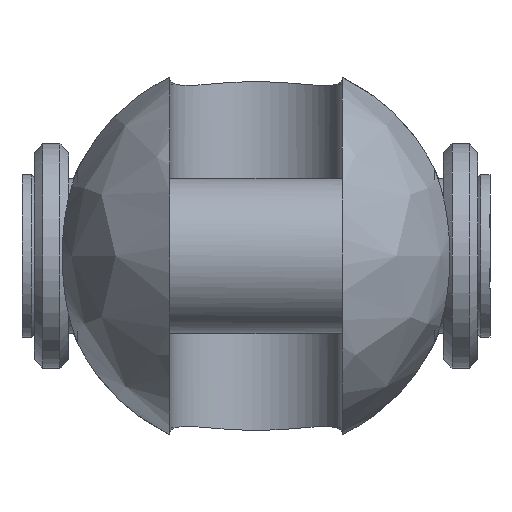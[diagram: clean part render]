
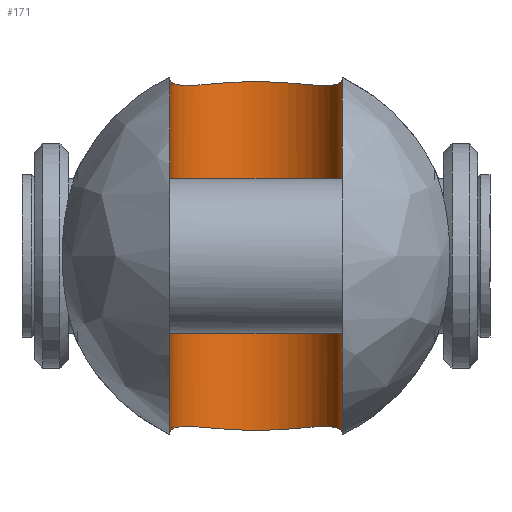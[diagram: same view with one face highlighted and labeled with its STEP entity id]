
A CAD part, left-side view. The second image highlights one B-rep face of the part: STEP entity #171.
In plain terms, the highlighted cylindrical face has radius 5 mm (diameter 10 mm), a partial arc.
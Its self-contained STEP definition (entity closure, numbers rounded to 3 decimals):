
#171=ADVANCED_FACE('',(#312),#2366,.F.);
#312=FACE_OUTER_BOUND('',#471,.T.);
#471=EDGE_LOOP('',(#1120,#1121,#1122,#1123,#1124,#1125,#1126,#1127));
#1120=ORIENTED_EDGE('',*,*,#1568,.F.);
#1121=ORIENTED_EDGE('',*,*,#1569,.F.);
#1122=ORIENTED_EDGE('',*,*,#1585,.F.);
#1123=ORIENTED_EDGE('',*,*,#1570,.F.);
#1124=ORIENTED_EDGE('',*,*,#1571,.F.);
#1125=ORIENTED_EDGE('',*,*,#1572,.F.);
#1126=ORIENTED_EDGE('',*,*,#1588,.F.);
#1127=ORIENTED_EDGE('',*,*,#1567,.F.);
#1567=EDGE_CURVE('',#2233,#2234,#1759,.T.);
#1568=EDGE_CURVE('',#2235,#2233,#1760,.T.);
#1569=EDGE_CURVE('',#2236,#2235,#1761,.T.);
#1570=EDGE_CURVE('',#2238,#2237,#1762,.T.);
#1571=EDGE_CURVE('',#2239,#2238,#1763,.T.);
#1572=EDGE_CURVE('',#2240,#2239,#1764,.T.);
#1585=EDGE_CURVE('',#2237,#2236,#1769,.T.);
#1588=EDGE_CURVE('',#2234,#2240,#1770,.T.);
#1759=B_SPLINE_CURVE_WITH_KNOTS('',3,(#5882,#5883,#5884,#5885),
 .UNSPECIFIED.,.F.,.F.,(4,4),(-1.575,0.),.UNSPECIFIED.);
#1760=B_SPLINE_CURVE_WITH_KNOTS('',1,(#5886,#5887),.UNSPECIFIED.,.F.,.F.,
(2,2),(-20.468,0.),.UNSPECIFIED.);
#1761=B_SPLINE_CURVE_WITH_KNOTS('',3,(#5888,#5889,#5890,#5891),
 .UNSPECIFIED.,.F.,.F.,(4,4),(-1.575,0.),.UNSPECIFIED.);
#1762=B_SPLINE_CURVE_WITH_KNOTS('',3,(#5892,#5893,#5894,#5895),
 .UNSPECIFIED.,.F.,.F.,(4,4),(-1.575,0.),.UNSPECIFIED.);
#1763=B_SPLINE_CURVE_WITH_KNOTS('',1,(#5896,#5897),.UNSPECIFIED.,.F.,.F.,
(2,2),(-20.468,0.),.UNSPECIFIED.);
#1764=B_SPLINE_CURVE_WITH_KNOTS('',3,(#5898,#5899,#5900,#5901),
 .UNSPECIFIED.,.F.,.F.,(4,4),(-1.575,0.),.UNSPECIFIED.);
#1769=B_SPLINE_CURVE_WITH_KNOTS('',3,(#5938,#5939,#5940,#5941,#5942,#5943,
#5944,#5945,#5946,#5947,#5948,#5949,#5950,#5951,#5952,#5953,#5954,#5955),
 .UNSPECIFIED.,.F.,.F.,(4,2,2,2,2,2,2,2,4),(0.,0.845,2.668,
4.508,6.348,8.187,10.027,11.851,
12.695),.UNSPECIFIED.);
#1770=B_SPLINE_CURVE_WITH_KNOTS('',3,(#5962,#5963,#5964,#5965,#5966,#5967,
#5968,#5969,#5970,#5971,#5972,#5973,#5974,#5975,#5976,#5977,#5978,#5979),
 .UNSPECIFIED.,.F.,.F.,(4,2,2,2,2,2,2,2,4),(0.,0.845,2.668,
4.508,6.348,8.187,10.027,11.851,
12.695),.UNSPECIFIED.);
#2233=VERTEX_POINT('',#5768);
#2234=VERTEX_POINT('',#5769);
#2235=VERTEX_POINT('',#5770);
#2236=VERTEX_POINT('',#5771);
#2237=VERTEX_POINT('',#5772);
#2238=VERTEX_POINT('',#5773);
#2239=VERTEX_POINT('',#5774);
#2240=VERTEX_POINT('',#5775);
#2366=CYLINDRICAL_SURFACE('',#2589,5.);
#2589=AXIS2_PLACEMENT_3D('',#5379,#2692,$);
#2692=DIRECTION('',(0.,0.,1.));
#5379=CARTESIAN_POINT('',(16.,0.,0.));
#5768=CARTESIAN_POINT('',(16.,5.,10.234));
#5769=CARTESIAN_POINT('',(17.526,4.762,9.995));
#5770=CARTESIAN_POINT('',(16.,5.,-10.234));
#5771=CARTESIAN_POINT('',(17.526,4.762,-9.995));
#5772=CARTESIAN_POINT('',(17.526,-4.762,-9.995));
#5773=CARTESIAN_POINT('',(16.,-5.,-10.234));
#5774=CARTESIAN_POINT('',(16.,-5.,10.234));
#5775=CARTESIAN_POINT('',(17.526,-4.762,9.995));
#5882=CARTESIAN_POINT('',(16.,5.,10.234));
#5883=CARTESIAN_POINT('',(16.498,5.,10.157));
#5884=CARTESIAN_POINT('',(17.023,4.923,10.075));
#5885=CARTESIAN_POINT('',(17.526,4.762,9.995));
#5886=CARTESIAN_POINT('',(16.,5.,-10.234));
#5887=CARTESIAN_POINT('',(16.,5.,10.234));
#5888=CARTESIAN_POINT('',(17.526,4.762,-9.995));
#5889=CARTESIAN_POINT('',(17.023,4.923,-10.075));
#5890=CARTESIAN_POINT('',(16.498,5.,-10.157));
#5891=CARTESIAN_POINT('',(16.,5.,-10.234));
#5892=CARTESIAN_POINT('',(16.,-5.,-10.234));
#5893=CARTESIAN_POINT('',(16.498,-5.,-10.157));
#5894=CARTESIAN_POINT('',(17.023,-4.923,-10.075));
#5895=CARTESIAN_POINT('',(17.526,-4.762,-9.995));
#5896=CARTESIAN_POINT('',(16.,-5.,10.234));
#5897=CARTESIAN_POINT('',(16.,-5.,-10.234));
#5898=CARTESIAN_POINT('',(17.526,-4.762,9.995));
#5899=CARTESIAN_POINT('',(17.023,-4.923,10.075));
#5900=CARTESIAN_POINT('',(16.498,-5.,10.157));
#5901=CARTESIAN_POINT('',(16.,-5.,10.234));
#5938=CARTESIAN_POINT('',(17.526,-4.762,-9.995));
#5939=CARTESIAN_POINT('',(17.79,-4.677,-9.953));
#5940=CARTESIAN_POINT('',(18.053,-4.568,-9.923));
#5941=CARTESIAN_POINT('',(18.848,-4.155,-9.863));
#5942=CARTESIAN_POINT('',(19.341,-3.764,-9.877));
#5943=CARTESIAN_POINT('',(20.114,-2.901,-9.938));
#5944=CARTESIAN_POINT('',(20.449,-2.365,-9.99));
#5945=CARTESIAN_POINT('',(20.892,-1.206,-10.07));
#5946=CARTESIAN_POINT('',(21.,-0.583,-10.095));
#5947=CARTESIAN_POINT('',(21.,0.583,-10.095));
#5948=CARTESIAN_POINT('',(20.892,1.206,-10.07));
#5949=CARTESIAN_POINT('',(20.449,2.365,-9.99));
#5950=CARTESIAN_POINT('',(20.114,2.901,-9.938));
#5951=CARTESIAN_POINT('',(19.341,3.764,-9.877));
#5952=CARTESIAN_POINT('',(18.848,4.155,-9.863));
#5953=CARTESIAN_POINT('',(18.053,4.568,-9.923));
#5954=CARTESIAN_POINT('',(17.79,4.677,-9.953));
#5955=CARTESIAN_POINT('',(17.526,4.762,-9.995));
#5962=CARTESIAN_POINT('',(17.526,4.762,9.995));
#5963=CARTESIAN_POINT('',(17.79,4.677,9.953));
#5964=CARTESIAN_POINT('',(18.053,4.568,9.923));
#5965=CARTESIAN_POINT('',(18.848,4.155,9.863));
#5966=CARTESIAN_POINT('',(19.341,3.764,9.877));
#5967=CARTESIAN_POINT('',(20.114,2.901,9.938));
#5968=CARTESIAN_POINT('',(20.449,2.365,9.99));
#5969=CARTESIAN_POINT('',(20.892,1.206,10.07));
#5970=CARTESIAN_POINT('',(21.,0.583,10.095));
#5971=CARTESIAN_POINT('',(21.,-0.583,10.095));
#5972=CARTESIAN_POINT('',(20.892,-1.206,10.07));
#5973=CARTESIAN_POINT('',(20.449,-2.365,9.99));
#5974=CARTESIAN_POINT('',(20.114,-2.901,9.938));
#5975=CARTESIAN_POINT('',(19.341,-3.764,9.877));
#5976=CARTESIAN_POINT('',(18.848,-4.155,9.863));
#5977=CARTESIAN_POINT('',(18.053,-4.568,9.923));
#5978=CARTESIAN_POINT('',(17.79,-4.677,9.953));
#5979=CARTESIAN_POINT('',(17.526,-4.762,9.995));
